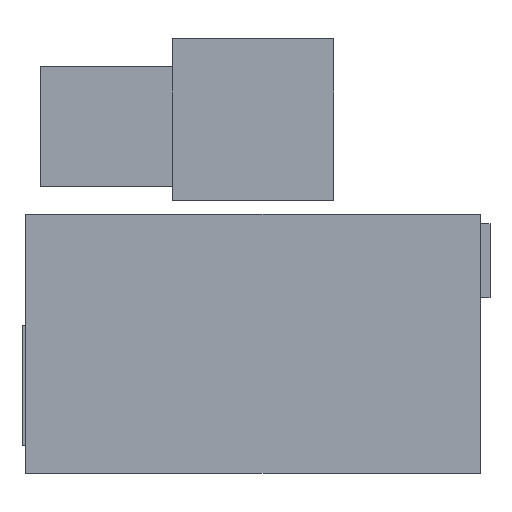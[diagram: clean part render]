
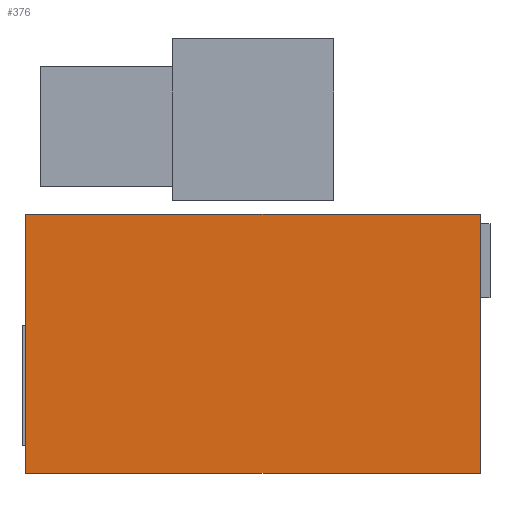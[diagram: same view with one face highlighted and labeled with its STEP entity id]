
A CAD part, top view. The second image highlights one B-rep face of the part: STEP entity #376.
In plain terms, the highlighted planar face has unit normal (0, 0, 1).
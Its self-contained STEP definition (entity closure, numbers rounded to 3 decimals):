
#62 = VERTEX_POINT('',#63);
#63 = CARTESIAN_POINT('',(10.85,8.,52.));
#70 = PLANE('',#71);
#71 = AXIS2_PLACEMENT_3D('',#72,#73,#74);
#72 = CARTESIAN_POINT('',(10.85,8.,29.));
#73 = DIRECTION('',(1.,0.,0.));
#74 = DIRECTION('',(0.,0.,1.));
#82 = PLANE('',#83);
#83 = AXIS2_PLACEMENT_3D('',#84,#85,#86);
#84 = CARTESIAN_POINT('',(10.85,8.,29.));
#85 = DIRECTION('',(0.,1.,0.));
#86 = DIRECTION('',(0.,0.,1.));
#123 = VERTEX_POINT('',#124);
#124 = CARTESIAN_POINT('',(10.85,64.,52.));
#138 = PLANE('',#139);
#139 = AXIS2_PLACEMENT_3D('',#140,#141,#142);
#140 = CARTESIAN_POINT('',(10.85,64.,29.));
#141 = DIRECTION('',(0.,1.,0.));
#142 = DIRECTION('',(0.,0.,1.));
#150 = EDGE_CURVE('',#62,#123,#151,.T.);
#151 = SURFACE_CURVE('',#152,(#156,#163),.PCURVE_S1.);
#152 = LINE('',#153,#154);
#153 = CARTESIAN_POINT('',(10.85,8.,52.));
#154 = VECTOR('',#155,1.);
#155 = DIRECTION('',(0.,1.,0.));
#156 = PCURVE('',#70,#157);
#157 = DEFINITIONAL_REPRESENTATION('',(#158),#162);
#158 = LINE('',#159,#160);
#159 = CARTESIAN_POINT('',(23.,0.));
#160 = VECTOR('',#161,1.);
#161 = DIRECTION('',(0.,-1.));
#162 = ( GEOMETRIC_REPRESENTATION_CONTEXT(2) 
PARAMETRIC_REPRESENTATION_CONTEXT() REPRESENTATION_CONTEXT('2D SPACE',''
  ) );
#163 = PCURVE('',#164,#169);
#164 = PLANE('',#165);
#165 = AXIS2_PLACEMENT_3D('',#166,#167,#168);
#166 = CARTESIAN_POINT('',(10.85,8.,52.));
#167 = DIRECTION('',(0.,0.,1.));
#168 = DIRECTION('',(1.,0.,0.));
#169 = DEFINITIONAL_REPRESENTATION('',(#170),#174);
#170 = LINE('',#171,#172);
#171 = CARTESIAN_POINT('',(0.,0.));
#172 = VECTOR('',#173,1.);
#173 = DIRECTION('',(0.,1.));
#174 = ( GEOMETRIC_REPRESENTATION_CONTEXT(2) 
PARAMETRIC_REPRESENTATION_CONTEXT() REPRESENTATION_CONTEXT('2D SPACE',''
  ) );
#182 = VERTEX_POINT('',#183);
#183 = CARTESIAN_POINT('',(109.15,8.,52.));
#190 = PLANE('',#191);
#191 = AXIS2_PLACEMENT_3D('',#192,#193,#194);
#192 = CARTESIAN_POINT('',(109.15,8.,29.));
#193 = DIRECTION('',(1.,0.,0.));
#194 = DIRECTION('',(0.,0.,1.));
#233 = VERTEX_POINT('',#234);
#234 = CARTESIAN_POINT('',(109.15,64.,52.));
#255 = EDGE_CURVE('',#182,#233,#256,.T.);
#256 = SURFACE_CURVE('',#257,(#261,#268),.PCURVE_S1.);
#257 = LINE('',#258,#259);
#258 = CARTESIAN_POINT('',(109.15,8.,52.));
#259 = VECTOR('',#260,1.);
#260 = DIRECTION('',(0.,1.,0.));
#261 = PCURVE('',#190,#262);
#262 = DEFINITIONAL_REPRESENTATION('',(#263),#267);
#263 = LINE('',#264,#265);
#264 = CARTESIAN_POINT('',(23.,0.));
#265 = VECTOR('',#266,1.);
#266 = DIRECTION('',(0.,-1.));
#267 = ( GEOMETRIC_REPRESENTATION_CONTEXT(2) 
PARAMETRIC_REPRESENTATION_CONTEXT() REPRESENTATION_CONTEXT('2D SPACE',''
  ) );
#268 = PCURVE('',#164,#269);
#269 = DEFINITIONAL_REPRESENTATION('',(#270),#274);
#270 = LINE('',#271,#272);
#271 = CARTESIAN_POINT('',(98.3,0.));
#272 = VECTOR('',#273,1.);
#273 = DIRECTION('',(0.,1.));
#274 = ( GEOMETRIC_REPRESENTATION_CONTEXT(2) 
PARAMETRIC_REPRESENTATION_CONTEXT() REPRESENTATION_CONTEXT('2D SPACE',''
  ) );
#301 = EDGE_CURVE('',#62,#182,#302,.T.);
#302 = SURFACE_CURVE('',#303,(#307,#314),.PCURVE_S1.);
#303 = LINE('',#304,#305);
#304 = CARTESIAN_POINT('',(10.85,8.,52.));
#305 = VECTOR('',#306,1.);
#306 = DIRECTION('',(1.,0.,0.));
#307 = PCURVE('',#82,#308);
#308 = DEFINITIONAL_REPRESENTATION('',(#309),#313);
#309 = LINE('',#310,#311);
#310 = CARTESIAN_POINT('',(23.,0.));
#311 = VECTOR('',#312,1.);
#312 = DIRECTION('',(0.,1.));
#313 = ( GEOMETRIC_REPRESENTATION_CONTEXT(2) 
PARAMETRIC_REPRESENTATION_CONTEXT() REPRESENTATION_CONTEXT('2D SPACE',''
  ) );
#314 = PCURVE('',#164,#315);
#315 = DEFINITIONAL_REPRESENTATION('',(#316),#320);
#316 = LINE('',#317,#318);
#317 = CARTESIAN_POINT('',(0.,0.));
#318 = VECTOR('',#319,1.);
#319 = DIRECTION('',(1.,0.));
#320 = ( GEOMETRIC_REPRESENTATION_CONTEXT(2) 
PARAMETRIC_REPRESENTATION_CONTEXT() REPRESENTATION_CONTEXT('2D SPACE',''
  ) );
#348 = EDGE_CURVE('',#123,#233,#349,.T.);
#349 = SURFACE_CURVE('',#350,(#354,#361),.PCURVE_S1.);
#350 = LINE('',#351,#352);
#351 = CARTESIAN_POINT('',(10.85,64.,52.));
#352 = VECTOR('',#353,1.);
#353 = DIRECTION('',(1.,0.,0.));
#354 = PCURVE('',#138,#355);
#355 = DEFINITIONAL_REPRESENTATION('',(#356),#360);
#356 = LINE('',#357,#358);
#357 = CARTESIAN_POINT('',(23.,0.));
#358 = VECTOR('',#359,1.);
#359 = DIRECTION('',(0.,1.));
#360 = ( GEOMETRIC_REPRESENTATION_CONTEXT(2) 
PARAMETRIC_REPRESENTATION_CONTEXT() REPRESENTATION_CONTEXT('2D SPACE',''
  ) );
#361 = PCURVE('',#164,#362);
#362 = DEFINITIONAL_REPRESENTATION('',(#363),#367);
#363 = LINE('',#364,#365);
#364 = CARTESIAN_POINT('',(0.,56.));
#365 = VECTOR('',#366,1.);
#366 = DIRECTION('',(1.,0.));
#367 = ( GEOMETRIC_REPRESENTATION_CONTEXT(2) 
PARAMETRIC_REPRESENTATION_CONTEXT() REPRESENTATION_CONTEXT('2D SPACE',''
  ) );
#376 = ADVANCED_FACE('',(#377),#164,.T.);
#377 = FACE_BOUND('',#378,.T.);
#378 = EDGE_LOOP('',(#379,#380,#381,#382));
#379 = ORIENTED_EDGE('',*,*,#150,.F.);
#380 = ORIENTED_EDGE('',*,*,#301,.T.);
#381 = ORIENTED_EDGE('',*,*,#255,.T.);
#382 = ORIENTED_EDGE('',*,*,#348,.F.);
